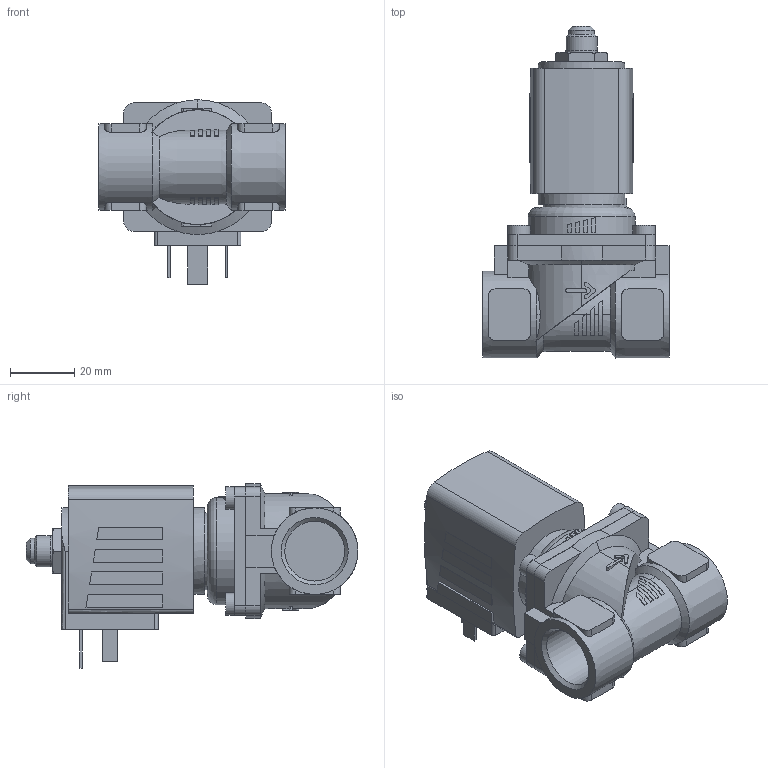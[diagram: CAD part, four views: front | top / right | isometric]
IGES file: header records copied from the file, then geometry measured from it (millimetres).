
Start section: Data from Parasolid IGES Translator 26.0.171, Copyright(c) 2006 Siemens PLM Software. All Rights Reserved.
Global section: file name: 6281-327240-2_2-Way_Solenoid_Valve__Servo-assisted__General_Purpose.igs; native system: By Siemens PLM Incorporated; preprocessor: XPlus GENERIC/IGES 26.0.171; author: Noname; organization: Noname; date: 20240518.233548; units: millimetre
Bounding box: 58 x 103.5 x 57.5 mm (x, y, z)
Surface area: 27601.6 mm2 (no closed solid volume)
Topology: 0 solids, 0 shells, 340 faces, 1726 edges, 1700 vertices
Faces by surface type: extrusion 220, revolution 120
